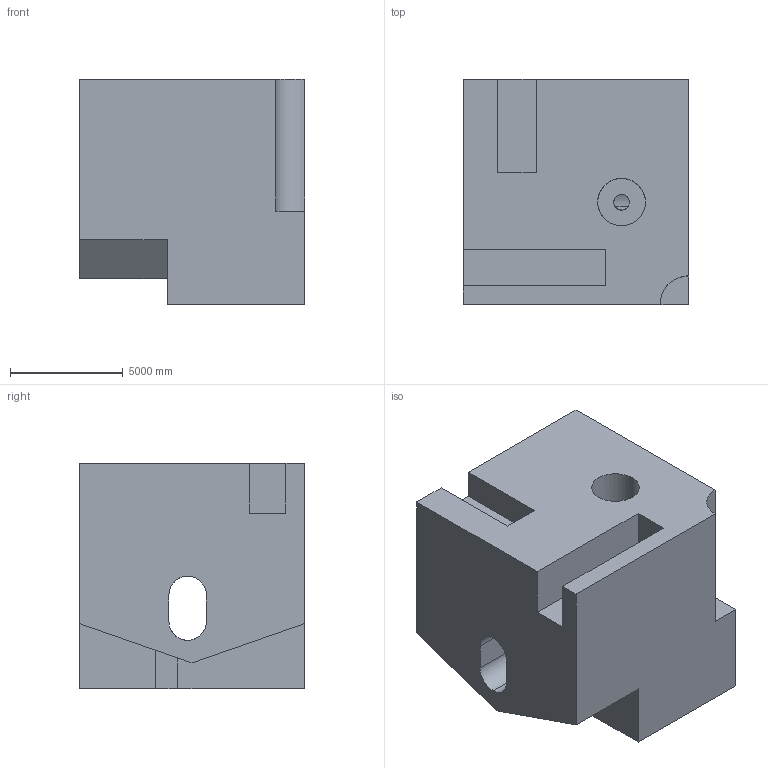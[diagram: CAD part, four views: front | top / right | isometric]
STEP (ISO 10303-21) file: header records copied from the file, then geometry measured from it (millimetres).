
FILE_DESCRIPTION (( 'STEP AP203' ), '1' );
FILE_NAME ('704.STEP', '2022-07-29T12:38:12', ( 'user' ), ( '' ), 'SwSTEP 2.0', 'SolidWorks 2021', '' );
FILE_SCHEMA (( 'CONFIG_CONTROL_DESIGN' ));
Length unit declared in the file: centimetre
Products named in the file (1): 704
Bounding box: 10000 x 10000 x 10000 mm (x, y, z)
Volume: 792737990010.6 mm3; surface area: 775343836.8 mm2
Topology: 1 solids, 1 shells, 50 faces, 153 edges, 102 vertices
Faces by surface type: plane 30, cylinder 20
Entity records: 3404 total; most frequent: CARTESIAN_POINT 1980, ORIENTED_EDGE 306, DIRECTION 247, EDGE_CURVE 153, VECTOR 103, LINE 103, VERTEX_POINT 102, AXIS2_PLACEMENT_3D 72
